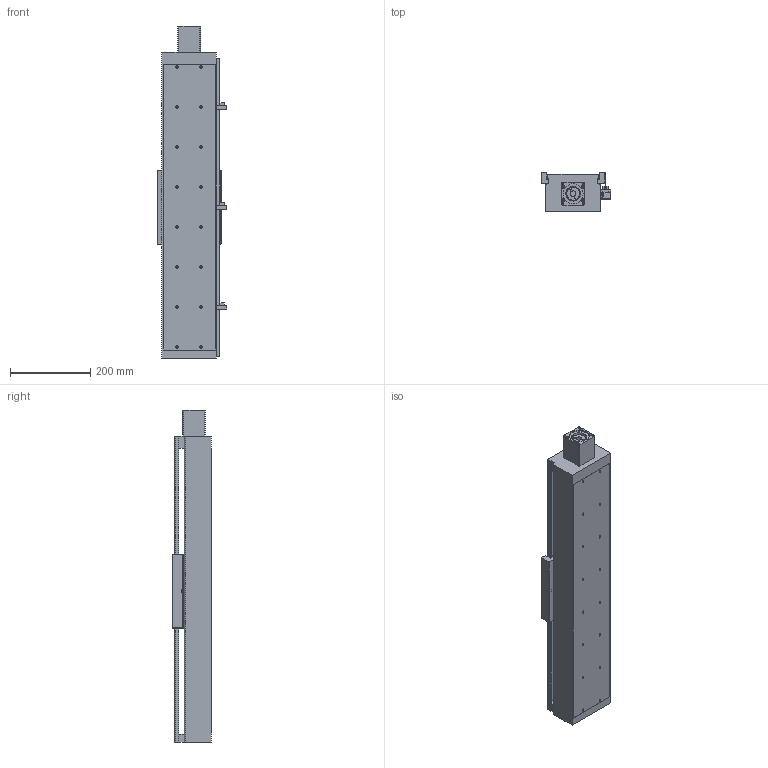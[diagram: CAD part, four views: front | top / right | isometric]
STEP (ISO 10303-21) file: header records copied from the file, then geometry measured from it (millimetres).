
FILE_DESCRIPTION((''),'2;1');
FILE_NAME('E:\libraries\UIA actuator library 2009\standard actuator\UIA136 ball screw 25\UIA136R15NDC-_ _ _-R25_ _, stp file 27Apr16\UIA136R15NDC-500-R25_ _-M60-P13-C10-S.stp','2016-04-28T16:36:52',('h029'),(''),'Autodesk Inventor 11','Autodesk Inventor 11','');
FILE_SCHEMA(('AUTOMOTIVE_DESIGN { 1 0 10303 214 1 1 1 1 }'));
Length unit declared in the file: millimetre
Products named in the file (10): UIA136R15NDC-500; UIA136R15NDC-body; motor mount F60; SOH-32C; SOH-32C-3; SOH-32C-1; SOH-32C-2; Carriage; Sensor Switch; sensor rail
Assembly tree (9 placements, depth 3):
  UIA136R15NDC-500
    UIA136R15NDC-body
    motor mount F60
    SOH-32C
      SOH-32C-3
      SOH-32C-1
      SOH-32C-2
    Carriage
    Sensor Switch
    sensor rail
Bounding box: 174.5 x 98 x 830 mm (x, y, z)
Volume: 3385181.1 mm3; surface area: 896326.5 mm2
Topology: 8 solids, 8 shells, 504 faces, 1331 edges, 870 vertices
Faces by surface type: plane 322, bspline 134, cylinder 44, cone 4
Full cylindrical faces by diameter (mm): 2.459 x2, 3.242 x2, 4.5 x2, 7 x4, 7.5 x2, 14 x3, 17 x1, 32 x3, 37 x1, 50.3 x1, 50.5 x1
Entity records: 16444 total; most frequent: CARTESIAN_POINT 4700, ORIENTED_EDGE 2272, DIRECTION 2226, EDGE_CURVE 1136, VECTOR 808, LINE 808, VERTEX_POINT 806, EDGE_LOOP 748
